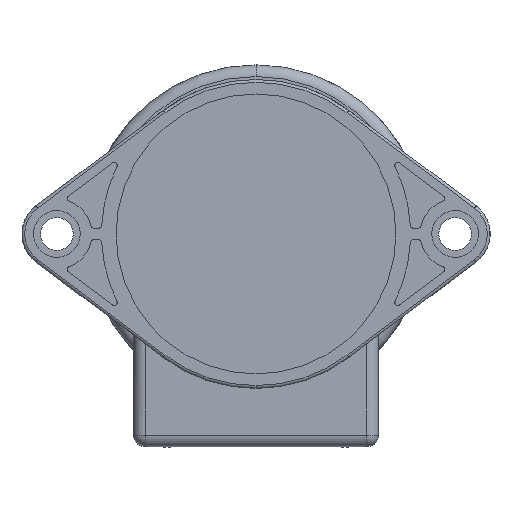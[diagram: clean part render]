
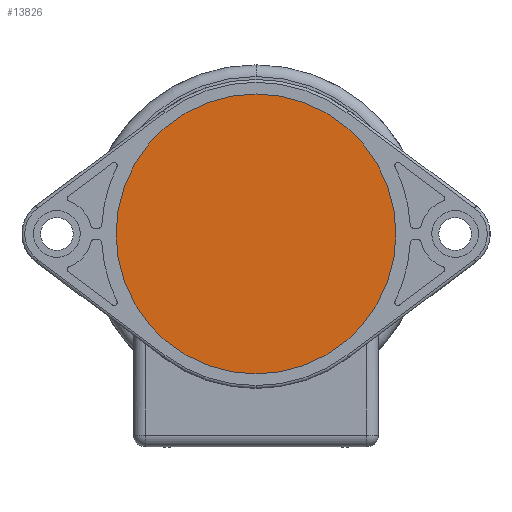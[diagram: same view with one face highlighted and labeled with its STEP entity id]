
A CAD part, front view. The second image highlights one B-rep face of the part: STEP entity #13826.
In plain terms, the highlighted planar face has unit normal (0, -1, 0).
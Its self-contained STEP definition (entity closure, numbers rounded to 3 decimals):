
#10597=CARTESIAN_POINT('',(0.,0.2,0.));
#10598=DIRECTION('',(0.,-1.,0.));
#10599=DIRECTION('',(0.,0.,1.));
#10600=AXIS2_PLACEMENT_3D('',#10597,#10598,#10599);
#10602=CARTESIAN_POINT('',(0.,0.2,0.));
#10603=DIRECTION('',(0.,-1.,0.));
#10604=DIRECTION('',(0.,0.,-1.));
#10605=AXIS2_PLACEMENT_3D('',#10602,#10603,#10604);
#10923=CARTESIAN_POINT('',(0.,0.2,24.));
#10924=CARTESIAN_POINT('',(0.,0.2,-24.));
#10925=VERTEX_POINT('',#10923);
#10926=VERTEX_POINT('',#10924);
#13817=CARTESIAN_POINT('',(0.,0.2,0.));
#13818=DIRECTION('',(0.,-1.,0.));
#13819=DIRECTION('',(0.,0.,1.));
#13820=AXIS2_PLACEMENT_3D('',#13817,#13818,#13819);
#13821=PLANE('',#13820);
#13822=ORIENTED_EDGE('',*,*,#13799,.F.);
#13823=ORIENTED_EDGE('',*,*,#13809,.F.);
#13824=EDGE_LOOP('',(#13822,#13823));
#13825=FACE_OUTER_BOUND('',#13824,.F.);
#13826=ADVANCED_FACE('',(#13825),#13821,.T.);
#10601=CIRCLE('',#10600,24.);
#10606=CIRCLE('',#10605,24.);
#13799=EDGE_CURVE('',#10925,#10926,#10601,.T.);
#13809=EDGE_CURVE('',#10926,#10925,#10606,.T.);
